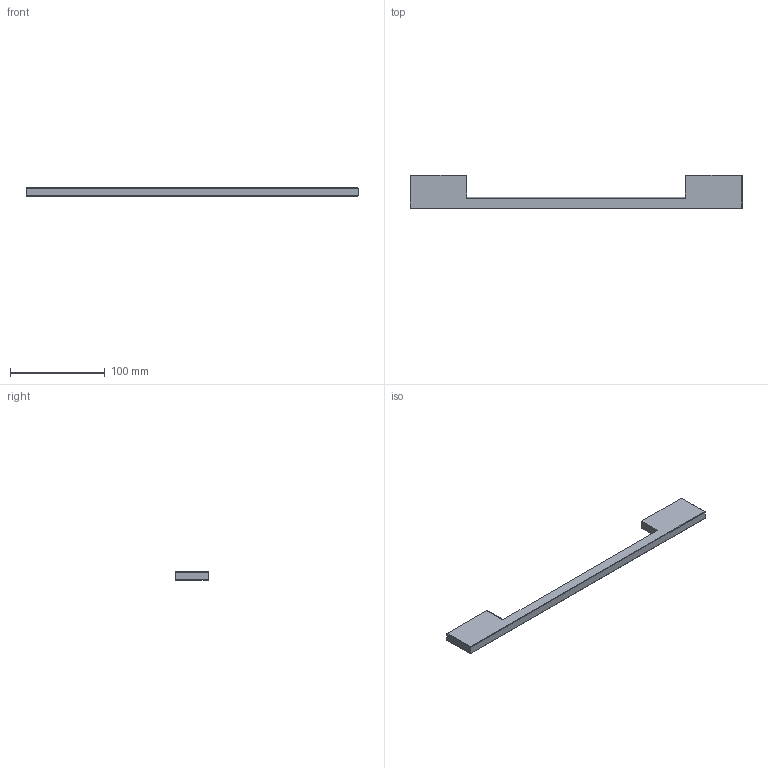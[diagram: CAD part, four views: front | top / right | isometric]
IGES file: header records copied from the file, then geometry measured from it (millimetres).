
Start section: Data from Parasolid IGES Translator 15.0.47, Copyright(c) 2006 Siemens P LM Software. All Rights Reserved.
Global section: file name: 9995587.igs; native system:  By UGS Corp.; preprocessor: XPlus GENERIC/IGES 3.0; author: Noname; organization: Noname; date: 20140122.183125; units: millimetre
Bounding box: 350 x 35.01 x 9.01 mm (x, y, z)
Surface area: 20927.4 mm2 (no closed solid volume)
Topology: 0 solids, 0 shells, 24 faces, 112 edges, 110 vertices
Faces by surface type: revolution 13, extrusion 11
